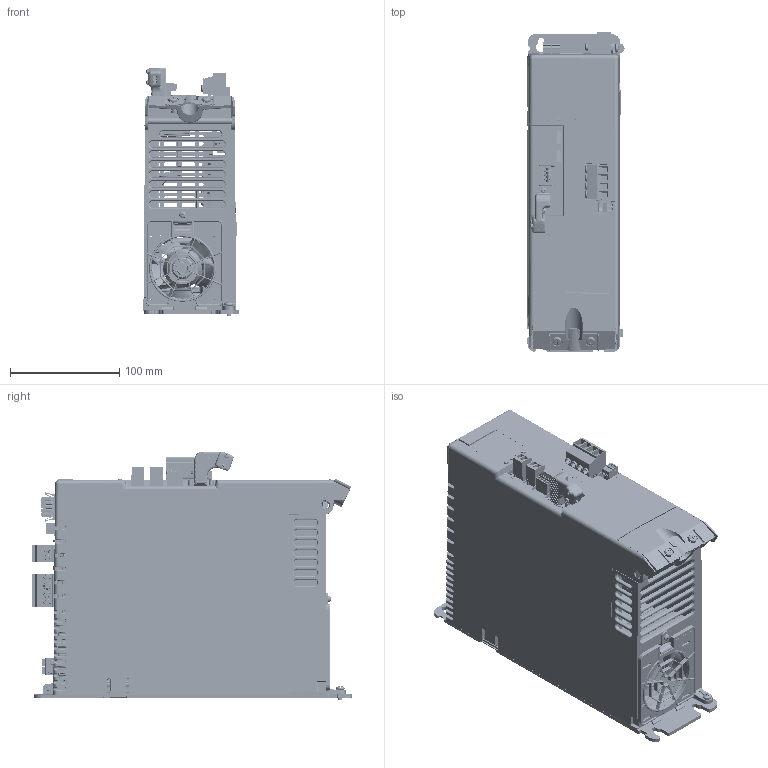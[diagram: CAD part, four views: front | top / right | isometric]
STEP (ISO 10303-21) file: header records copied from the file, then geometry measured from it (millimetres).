
FILE_DESCRIPTION((''),'2;1');
FILE_NAME('10000202601_ASM','2012-11-15T',('sramali'),('Rockwell Automation'),'PRO/ENGINEER BY PARAMETRIC TECHNOLOGY CORPORATION, 2010140','PRO/ENGINEER BY PARAMETRIC TECHNOLOGY CORPORATION, 2010140','');
FILE_SCHEMA(('CONFIG_CONTROL_DESIGN'));
Products named in the file (56): 10000193319; 10000199008; 10000154886; 10000198763; 10000198754; 10000198765_ASM; 10000198762_ASM; 10000172254; 10000154904; 10000299785; 10000200464; 10000155320; 10000177542; 10000154905; 10000154906; 94368411-K6KM; 10000155318; CN_PN-100667; 10000154902_ASM; 10000202886; 10000198994; 10000202705; 10000204789; M3X6-PANHD-SCREW; M4X10-PANHD-SCREW; M4X14-PANHD-SCREW; M5X18-PANHD-SCREW; 10000216969; 10000198699; 10000198696; 10000198695; 10000198700; 10000198697; 10000198694; 10000198702; 10000203054; RJ45-BLOCK-ADAPTER; PRT0002; CN_PN-91887; CN_PN-108813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
Assembly tree (78 placements, depth 4):
  10000202601_ASM
    10000193319
    10000199008
    10000154886
    10000198762_ASM
      10000198763
      10000198765_ASM
        10000198754
    10000172254
    10000154902_ASM
      10000154904
      10000299785
      10000200464
      10000155320
      10000177542  x2
      10000154905
      10000154906
      94368411-K6KM  x2
      10000155318  x4
      CN_PN-100667
    10000202886
    10000198994
    10000202705
    10000204789
    M3X6-PANHD-SCREW  x7
    M4X10-PANHD-SCREW  x4
    M4X14-PANHD-SCREW  x2
    M5X18-PANHD-SCREW  x4
    10000216969
    10000198699
    10000198696
    10000198695
    10000198700  x2
    10000198697
    10000198694
    10000198702
    10000203054  x2
    RJ45-BLOCK-ADAPTER  x2
    HEADERCB_ASM
      PRT0002
      CN_PN-91887  x2
      CN_PN-108813
      CN_PN-108535
      CN_PN-108537
    FR3PCBHEADER_ASM
      FR3PCBLAYOUT_
      CN_PN-100670
      CN_PN-100769
      CN_PN-100776
      CN_PN-99838
      CN_PN-100780
      CN_PN-112663  x2
    10000414427_ASM
      10000342464
      10000269716
      10000414426
Bounding box: 89.11 x 293.75 x 228.14 mm (x, y, z)
Volume: 1169218.9 mm3; surface area: 886555.3 mm2
Topology: 73 solids, 108 shells, 23209 faces, 62434 edges, 40022 vertices
Faces by surface type: plane 13062, cylinder 5593, bspline 2622, cone 826, torus 704, sphere 398, extrusion 4
Entity records: 792457 total; most frequent: CARTESIAN_POINT 308791, ORIENTED_EDGE 106187, DIRECTION 90449, EDGE_CURVE 53854, VECTOR 35163, LINE 35159, VERTEX_POINT 34635, AXIS2_PLACEMENT_3D 27643
